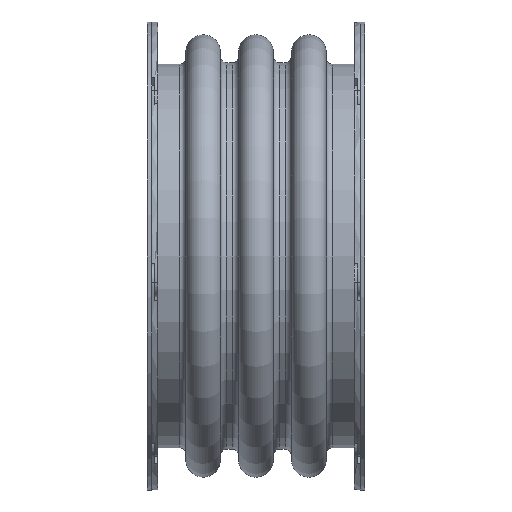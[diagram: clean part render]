
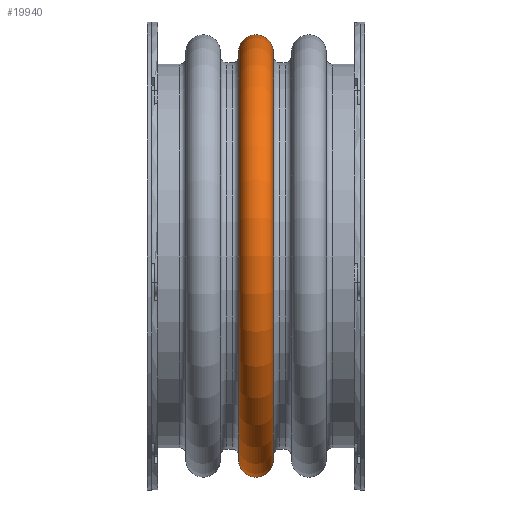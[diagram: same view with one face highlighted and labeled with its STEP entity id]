
A CAD part, front view. The second image highlights one B-rep face of the part: STEP entity #19940.
In plain terms, the highlighted toroidal (fillet/blend) face has major radius 428.625 mm and minor radius 36.513 mm.
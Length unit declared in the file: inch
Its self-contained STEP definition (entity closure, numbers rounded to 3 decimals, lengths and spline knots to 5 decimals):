
#288=FACE_BOUND('',#3220,.T.);
#1284=TOROIDAL_SURFACE('',#21879,16.875,1.4375);
#1879=FACE_OUTER_BOUND('',#3219,.T.);
#3219=EDGE_LOOP('',(#15268));
#3220=EDGE_LOOP('',(#15269));
#7008=CIRCLE('',#21878,16.92263);
#7009=CIRCLE('',#21880,16.92263);
#8758=VERTEX_POINT('',#33129);
#8759=VERTEX_POINT('',#33132);
#11103=EDGE_CURVE('',#8758,#8758,#7008,.T.);
#11104=EDGE_CURVE('',#8759,#8759,#7009,.T.);
#15268=ORIENTED_EDGE('',*,*,#11104,.F.);
#15269=ORIENTED_EDGE('',*,*,#11103,.T.);
#19940=ADVANCED_FACE('',(#1879,#288),#1284,.T.);
#21878=AXIS2_PLACEMENT_3D('',#33130,#26531,#26532);
#21879=AXIS2_PLACEMENT_3D('',#33131,#26533,#26534);
#21880=AXIS2_PLACEMENT_3D('',#33133,#26535,#26536);
#26531=DIRECTION('center_axis',(1.,0.,0.));
#26532=DIRECTION('ref_axis',(0.,0.,-1.));
#26533=DIRECTION('center_axis',(1.,0.,0.));
#26534=DIRECTION('ref_axis',(0.,0.,-1.));
#26535=DIRECTION('center_axis',(1.,0.,0.));
#26536=DIRECTION('ref_axis',(0.,0.,-1.));
#33129=CARTESIAN_POINT('',(-1.43671,16.92263,0.));
#33130=CARTESIAN_POINT('Origin',(-1.43671,0.,
0.));
#33131=CARTESIAN_POINT('Origin',(0.,0.,
0.));
#33132=CARTESIAN_POINT('',(1.43671,16.92263,0.));
#33133=CARTESIAN_POINT('Origin',(1.43671,0.,0.));
